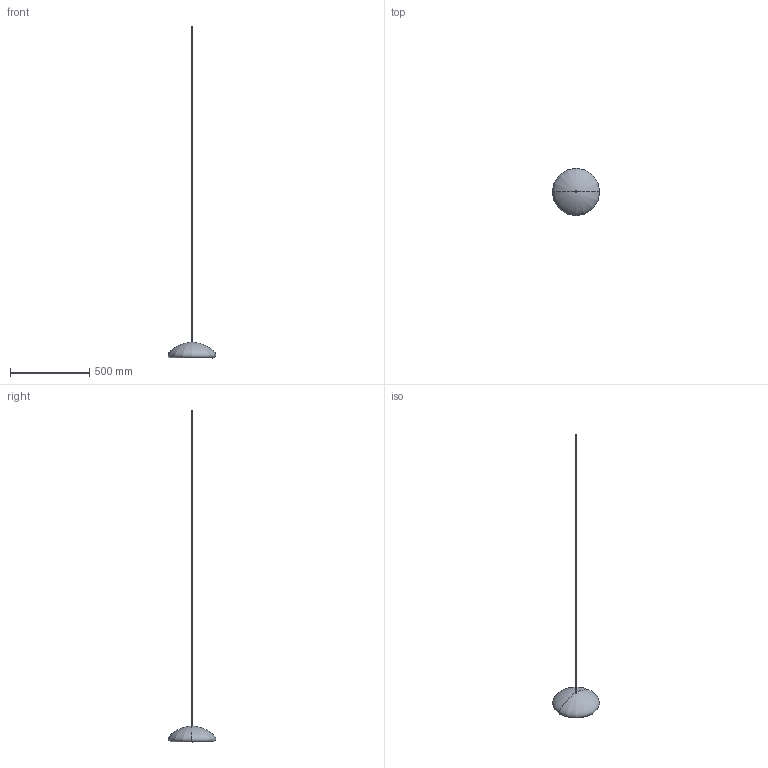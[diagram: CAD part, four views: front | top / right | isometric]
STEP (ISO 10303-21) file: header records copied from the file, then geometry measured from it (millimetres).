
FILE_DESCRIPTION(/* description */ (''),/* implementation_level */ '2;1');
FILE_NAME(/* name */ 'BELLY30 P',/* time_stamp */ '2026-08-05T17:18:14+09:00',/* author */ (''),/* organization */ (''),/* preprocessor_version */ 'ST-DEVELOPER v19.2',/* originating_system */ 'Rhino 8.21',/* authorisation */ '');
FILE_SCHEMA (('CONFIG_CONTROL_DESIGN'));
Length unit declared in the file: millimetre
Products named in the file (1): Document
Bounding box: 299.89 x 299.9 x 2099.78 mm (x, y, z)
Volume: 3498944.1 mm3; surface area: 231409.4 mm2
Topology: 1 solids, 1 shells, 9 faces, 16 edges, 10 vertices
Faces by surface type: cylinder 4, plane 3, bspline 2
Entity records: 1711 total; most frequent: CARTESIAN_POINT 1469, ORIENTED_EDGE 32, DIRECTION 27, AXIS2_PLACEMENT_3D 17, EDGE_CURVE 16, EDGE_LOOP 10, VERTEX_POINT 10, ADVANCED_FACE 9
